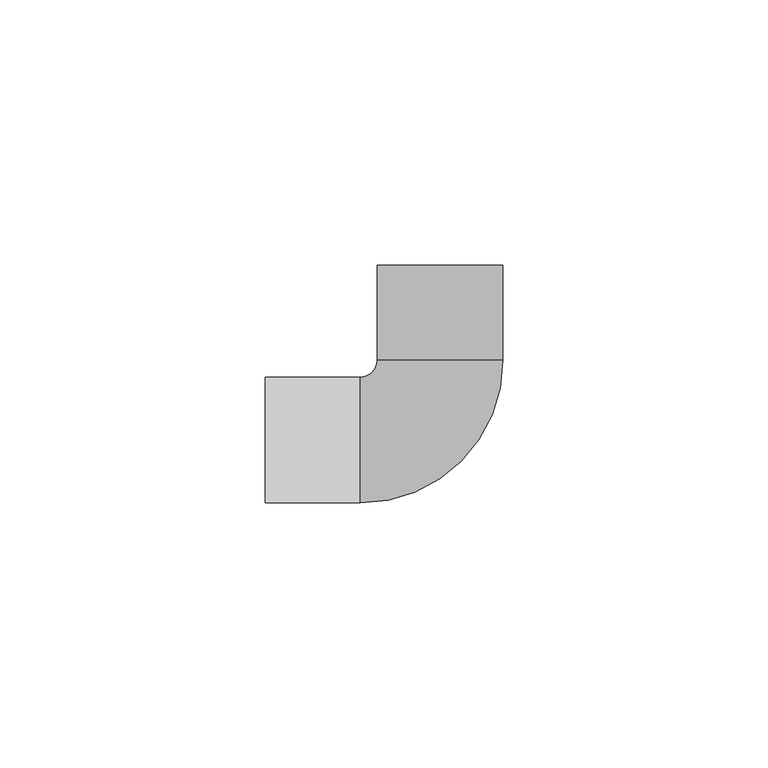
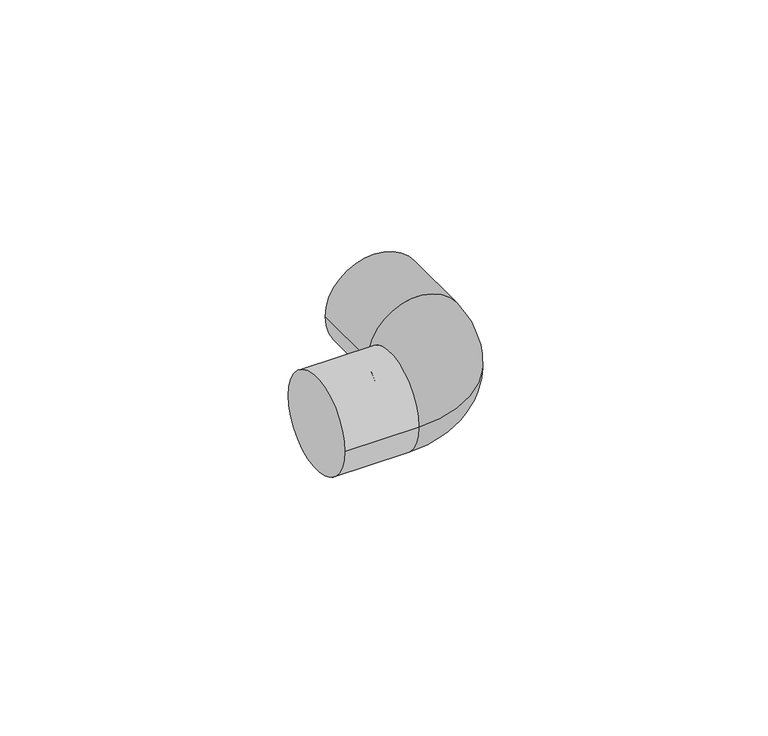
"""IFC4 building model written with IfcOpenShell, lengths in millimetres: pipe fitting geometry, 01101002 : Joelho a 90º."""

from ifc_helpers import new_model, si_unit, point, frame, origin, place, context, project, spatial, circle_curve, ellipse_curve, trimmed, source, transform, mapped, element, save
from ifc_brep_helpers import plane_surface, cylinder_surface, revolved_surface, advanced_brep


def pipe_fitting_12b024e0(model_context):
    return source(origin(), model_context, "Body", "AdvancedBrep", [
        advanced_brep(
        [(-15.0, -11.875, 0.0), (11.875, 15.0, 0.0), (-11.875, 15.0, 0.0), (-15.0, 11.875, 0.0), (-11.875, 33.0, 0.0), (11.875, 33.0, 0.0), (-33.0, 11.875, 0.0), (-33.0, -11.875, 0.0)],
        [
            (0, 1, circle_curve(frame((-15.0, 15.0, 0.0), z_axis=(0.0, 0.0, 1.0), x_axis=(1.0, 0.0, 0.0)), 26.875)),
            (1, 2, circle_curve(frame((0.0, 15.0, 0.0), z_axis=(0.0, -1.0, 0.0), x_axis=(1.0, 0.0, 0.0)), 11.875)),
            (2, 3, circle_curve(frame((-15.0, 15.0, 0.0), z_axis=(0.0, 0.0, -1.0), x_axis=(1.0, 0.0, 0.0)), 3.125)),
            (3, 0, circle_curve(frame((-15.0, 0.0, 0.0), z_axis=(1.0, 0.0, 0.0), x_axis=(0.0, -1.0, 0.0)), 11.875)),
            (2, 1, circle_curve(frame((0.0, 15.0, 0.0), z_axis=(0.0, -1.0, 0.0), x_axis=(1.0, 0.0, 0.0)), 11.875)),
            (0, 3, circle_curve(frame((-15.0, 0.0, 0.0), z_axis=(1.0, 0.0, 0.0), x_axis=(0.0, -1.0, 0.0)), 11.875)),
            (4, 5, circle_curve(frame((0.0, 33.0, 0.0), z_axis=(0.0, 1.0, 0.0), x_axis=(1.0, 0.0, 0.0)), 11.875)),
            (5, 4, circle_curve(frame((0.0, 33.0, 0.0), z_axis=(0.0, 1.0, 0.0), x_axis=(1.0, 0.0, 0.0)), 11.875)),
            (6, 7, circle_curve(frame((-33.0, 0.0, 0.0), z_axis=(-1.0, 0.0, 0.0), x_axis=(0.0, -1.0, 0.0)), 11.875)),
            (7, 6, circle_curve(frame((-33.0, 0.0, 0.0), z_axis=(-1.0, 0.0, 0.0), x_axis=(0.0, -1.0, 0.0)), 11.875)),
            (3, 6),
            (7, 0),
            (4, 2),
            (1, 5),
        ],
        [
            revolved_surface(trimmed(ellipse_curve(frame((0.0, 15.0, 0.0), z_axis=(0.0, 1.0, 0.0), x_axis=(1.0, 0.0, 0.0)), 11.875, 11.875), [point((-11.875, 15.0, 0.0))], [point((11.875, 15.0, 0.0))], True, "CARTESIAN"), (-15.0, 15.0, 0.0), (0.0, 0.0, -1.0)),
            revolved_surface(trimmed(ellipse_curve(frame((0.0, 15.0, 0.0), z_axis=(0.0, 1.0, 0.0), x_axis=(1.0, 0.0, 0.0)), 11.875, 11.875), [point((11.875, 15.0, 0.0))], [point((-11.875, 15.0, 0.0))], True, "CARTESIAN"), (-15.0, 15.0, 0.0), (0.0, 0.0, -1.0)),
            plane_surface(frame((0.0, 33.0, 0.0), z_axis=(0.0, 1.0, 0.0), x_axis=(0.0, 0.0, 1.0))),
            plane_surface(frame((-33.0, 0.0, 0.0), z_axis=(-1.0, 0.0, 0.0), x_axis=(0.0, 0.0, 1.0))),
            cylinder_surface(frame((-15.0, 0.0, 0.0), z_axis=(1.0, 0.0, 0.0), x_axis=(0.0, -1.0, 0.0)), 11.875),
            cylinder_surface(frame((0.0, 33.0, 0.0), z_axis=(0.0, 1.0, 0.0), x_axis=(1.0, 0.0, 0.0)), 11.875),
        ],
        [
            (0, [[1, 2, 3, 4]]),
            (1, [[-3, 5, -1, 6]]),
            (2, [[7, 8]]),
            (3, [[9, 10]]),
            (4, [[-4, 11, -10, 12]]),
            (4, [[-6, -12, -9, -11]]),
            (5, [[-7, 13, -2, 14]]),
            (5, [[-8, -14, -5, -13]]),
        ],
    ),
    ])


if __name__ == "__main__":
    model = new_model("IFC4")
    model_context = context("Model", 3, world=origin())
    ifc_project = project(units=[si_unit("LENGTHUNIT", "METRE", prefix="MILLI")], contexts=[model_context])
    site = spatial("IfcSite", under=ifc_project)
    building = spatial("IfcBuilding", under=site)
    placement = place(None, origin())
    pipe_fitting_shape = pipe_fitting_12b024e0(model_context)
    element("IfcPipeFitting", 1, ObjectType="01101002 : Joelho a 90º", at=placement, inside=building, context=model_context, shape_type="MappedRepresentation", body=[
        mapped(pipe_fitting_shape, transform((0.0, 0.0, 0.0), x_axis=(1.0, 0.0, 0.0), y_axis=(0.0, 1.0, 0.0), z_axis=(0.0, 0.0, 1.0))),
    ])
    save(model, "model.ifc")
